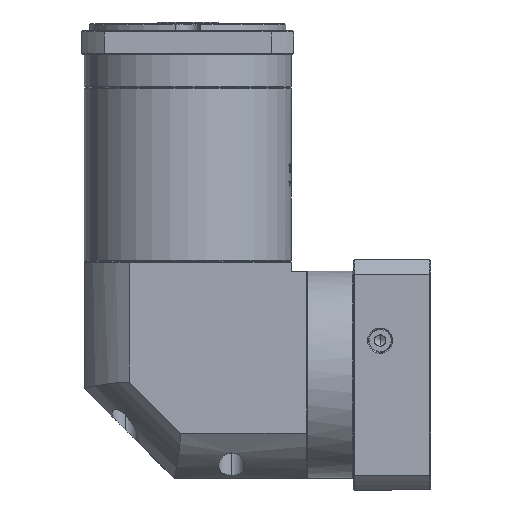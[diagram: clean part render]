
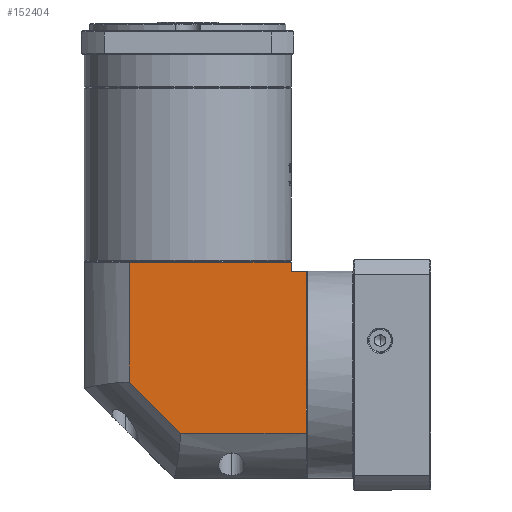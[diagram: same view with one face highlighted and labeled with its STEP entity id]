
A CAD part, left-side view. The second image highlights one B-rep face of the part: STEP entity #152404.
In plain terms, the highlighted planar face has unit normal (-1, 0, 0).
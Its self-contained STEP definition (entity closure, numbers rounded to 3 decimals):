
#1946 = VECTOR ( 'NONE', #19233, 1000. ) ;
#2178 = DIRECTION ( 'NONE',  ( 0., -1., 0. ) ) ;
#2372 = VECTOR ( 'NONE', #145425, 1000. ) ;
#2623 = LINE ( 'NONE', #62204, #97756 ) ;
#2947 = AXIS2_PLACEMENT_3D ( 'NONE', #152834, #38942, #113548 ) ;
#6395 = FACE_OUTER_BOUND ( 'NONE', #57188, .T. ) ;
#6925 = CARTESIAN_POINT ( 'NONE',  ( -216.152, -12.904, 30.858 ) ) ;
#8766 = VECTOR ( 'NONE', #9104, 1000. ) ;
#9104 = DIRECTION ( 'NONE',  ( 0., 1., 0. ) ) ;
#9990 = LINE ( 'NONE', #148331, #79430 ) ;
#10463 = VERTEX_POINT ( 'NONE', #99811 ) ;
#10588 = CARTESIAN_POINT ( 'NONE',  ( -216.152, -38.004, 125.758 ) ) ;
#10935 = DIRECTION ( 'NONE',  ( 0., 0.707, 0.707 ) ) ;
#18927 = VERTEX_POINT ( 'NONE', #24638 ) ;
#19233 = DIRECTION ( 'NONE',  ( 0., 0., 1. ) ) ;
#23717 = CARTESIAN_POINT ( 'NONE',  ( -216.152, -66.343, 30.858 ) ) ;
#24524 = PLANE ( 'NONE',  #2947 ) ;
#24638 = CARTESIAN_POINT ( 'NONE',  ( -216.152, -38.004, 59.196 ) ) ;
#28128 = CARTESIAN_POINT ( 'NONE',  ( -216.152, -127.904, 120.758 ) ) ;
#28771 = ORIENTED_EDGE ( 'NONE', *, *, #115266, .F. ) ;
#38942 = DIRECTION ( 'NONE',  ( 1., 0., 0. ) ) ;
#44787 = CARTESIAN_POINT ( 'NONE',  ( -216.152, -127.904, 120.758 ) ) ;
#50895 = EDGE_CURVE ( 'NONE', #139169, #88335, #109785, .T. ) ;
#52939 = EDGE_CURVE ( 'NONE', #108402, #90360, #95450, .T. ) ;
#53554 = LINE ( 'NONE', #94414, #1946 ) ;
#57188 = EDGE_LOOP ( 'NONE', ( #98564, #117953, #108119, #28771, #100281, #102436, #92906 ) ) ;
#62204 = CARTESIAN_POINT ( 'NONE',  ( -216.152, -38.004, 132.258 ) ) ;
#65509 = LINE ( 'NONE', #155362, #67551 ) ;
#67551 = VECTOR ( 'NONE', #142627, 1000. ) ;
#79430 = VECTOR ( 'NONE', #2178, 1000. ) ;
#88030 = VERTEX_POINT ( 'NONE', #10588 ) ;
#88245 = EDGE_CURVE ( 'NONE', #18927, #88030, #2623, .T. ) ;
#88335 = VERTEX_POINT ( 'NONE', #142256 ) ;
#90360 = VERTEX_POINT ( 'NONE', #28128 ) ;
#92906 = ORIENTED_EDGE ( 'NONE', *, *, #105175, .F. ) ;
#93318 = VECTOR ( 'NONE', #10935, 1000. ) ;
#94414 = CARTESIAN_POINT ( 'NONE',  ( -216.152, -127.904, 5.758 ) ) ;
#95450 = LINE ( 'NONE', #44787, #2372 ) ;
#97756 = VECTOR ( 'NONE', #113498, 1000. ) ;
#98564 = ORIENTED_EDGE ( 'NONE', *, *, #88245, .F. ) ;
#99811 = CARTESIAN_POINT ( 'NONE',  ( -216.152, -127.904, 125.758 ) ) ;
#100281 = ORIENTED_EDGE ( 'NONE', *, *, #52939, .T. ) ;
#102436 = ORIENTED_EDGE ( 'NONE', *, *, #157312, .T. ) ;
#102979 = CARTESIAN_POINT ( 'NONE',  ( -216.152, -136.304, 30.858 ) ) ;
#105175 = EDGE_CURVE ( 'NONE', #88030, #10463, #9990, .T. ) ;
#108119 = ORIENTED_EDGE ( 'NONE', *, *, #50895, .F. ) ;
#108402 = VERTEX_POINT ( 'NONE', #126629 ) ;
#109785 = LINE ( 'NONE', #6925, #8766 ) ;
#113498 = DIRECTION ( 'NONE',  ( 0., 0., 1. ) ) ;
#113548 = DIRECTION ( 'NONE',  ( 0., 1., 0. ) ) ;
#115266 = EDGE_CURVE ( 'NONE', #108402, #139169, #65509, .T. ) ;
#117953 = ORIENTED_EDGE ( 'NONE', *, *, #142598, .F. ) ;
#126629 = CARTESIAN_POINT ( 'NONE',  ( -216.152, -136.304, 120.758 ) ) ;
#139169 = VERTEX_POINT ( 'NONE', #102979 ) ;
#142256 = CARTESIAN_POINT ( 'NONE',  ( -216.152, -66.343, 30.858 ) ) ;
#142598 = EDGE_CURVE ( 'NONE', #88335, #18927, #144813, .T. ) ;
#142627 = DIRECTION ( 'NONE',  ( 0., 0., -1. ) ) ;
#144813 = LINE ( 'NONE', #23717, #93318 ) ;
#145425 = DIRECTION ( 'NONE',  ( 0., 1., 0. ) ) ;
#148331 = CARTESIAN_POINT ( 'NONE',  ( -216.152, -12.904, 125.758 ) ) ;
#152404 = ADVANCED_FACE ( 'NONE', ( #6395 ), #24524, .F. ) ;
#152834 = CARTESIAN_POINT ( 'NONE',  ( -216.152, -12.904, 132.258 ) ) ;
#155362 = CARTESIAN_POINT ( 'NONE',  ( -216.152, -136.304, 132.258 ) ) ;
#157312 = EDGE_CURVE ( 'NONE', #90360, #10463, #53554, .T. ) ;
